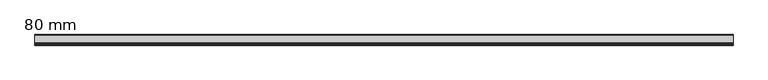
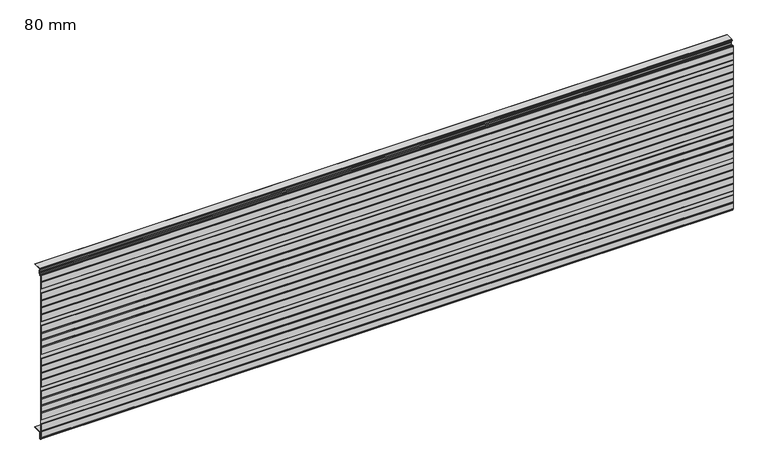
"""IFC4 building model written with IfcOpenShell, lengths in millimetres: plate geometry, HIANSA PANEL - H20.F02.002-PANELES DE FACHADA HORIZONTAL - PANEL PERFILADO - Panel de Muro Cortina : 80 mm."""

from ifc_helpers import new_model, si_unit, point, frame, frame_2d, origin, place, context, project, spatial, polyline, circle_curve, trimmed, segment, composite_curve, outline, extrude, source, transform, mapped, element, save


def plate_80_mm_0c97a696(model_context):
    return source(origin(), model_context, "Body", "SweptSolid", [
        extrude(outline(polyline([(-63.7836621, 1123.0800953), (-63.012002, 1123.5800953), (-13.6987386, 1123.5800953), (-12.8994266, 1123.0800953), (-63.7836621, 1123.0800953)])), frame((-2200.0, 0.0, 0.0), z_axis=(1.0, 0.0, 0.0), x_axis=(0.0, 1.0, 0.0)), (0.0, 0.0, 1.0), 4400.0),
        extrude(outline(polyline([(-63.8274011, 25.6210465), (-12.9205789, 25.6210465), (-13.7002592, 25.1210465), (-63.0111357, 25.1210465), (-63.8274011, 25.6210465)])), frame((-2200.0, 0.0, 0.0), z_axis=(1.0, 0.0, 0.0), x_axis=(0.0, 1.0, 0.0)), (0.0, 0.0, 1.0), 4400.0),
        extrude(outline(composite_curve([segment(trimmed(circle_curve(frame_2d((-66.3367084, 23.0802198)), 2.54), [point((-68.8767084, 23.0802198))], [point((-66.3367084, 25.6202198))], False, "CARTESIAN"), True, "CONTINUOUS"), segment(polyline([(-66.3367084, 25.6202198), (-63.8260515, 25.6202198), (-63.0095828, 25.1200953), (-66.336632, 25.1202198)]), True, "CONTINUOUS"), segment(trimmed(circle_curve(frame_2d((-66.3367084, 23.0802198)), 2.04), [point((-66.336632, 25.1202198))], [point((-68.3767084, 23.0802198))], True, "CARTESIAN"), True, "CONTINUOUS"), segment(polyline([(-68.3767084, 23.0802198), (-68.3767084, -18.7009512)]), True, "CONTINUOUS"), segment(trimmed(circle_curve(frame_2d((-69.3767084, -18.7009512)), 1.0), [point((-68.3767084, -18.7009512))], [point((-69.3767084, -19.7009512))], False, "CARTESIAN"), True, "CONTINUOUS"), segment(polyline([(-69.3767084, -19.7009512), (-73.1267084, -19.7009512)]), True, "CONTINUOUS"), segment(trimmed(circle_curve(frame_2d((-73.1267084, -18.7009512)), 1.0), [point((-73.1267084, -19.7009512))], [point((-74.1267084, -18.7009512))], False, "CARTESIAN"), True, "CONTINUOUS"), segment(polyline([(-74.1267084, -18.7009512), (-74.1267084, -10.5354413)]), True, "CONTINUOUS"), segment(trimmed(circle_curve(frame_2d((-75.1267084, -10.5354413)), 1.0), [point((-74.1267084, -10.5354413))], [point((-75.1267084, -9.5354413))], True, "CARTESIAN"), True, "CONTINUOUS"), segment(polyline([(-75.1267084, -9.5354413), (-77.5159365, -9.5354413)]), True, "CONTINUOUS"), segment(trimmed(circle_curve(frame_2d((-77.5159365, -7.6351946)), 1.9002467), [point((-77.5159365, -9.5354413))], [point((-79.3594466, -8.0960721))], False, "CARTESIAN"), True, "CONTINUOUS"), segment(polyline([(-79.3594466, -8.0960721), (-79.9990488, -5.5376633), (-79.9990488, 33.6845589), (-78.9990488, 37.6845589), (-79.9990488, 41.6845589), (-79.9990488, 84.9067811), (-78.9990488, 87.9067811), (-78.9990488, 113.0187811), (-79.9990488, 116.0187811), (-79.9990488, 159.2410033), (-78.9990488, 163.2410033), (-79.9990488, 167.2410033), (-79.9990488, 206.4632255), (-78.9990488, 210.4632255), (-79.9990488, 214.4632255), (-79.9990488, 253.6854477), (-78.9990488, 257.6854477), (-79.9990488, 261.6854477), (-79.9990488, 304.9076699), (-78.9990488, 307.9076699), (-78.9990488, 333.0196699), (-79.9990488, 336.0196699), (-79.9990488, 379.2418921), (-78.9990488, 383.2418921), (-79.9990488, 387.2418921), (-79.9990488, 426.4641143), (-78.9990488, 430.4641143), (-79.9990488, 434.4641143), (-79.9990488, 473.6863365), (-78.9990488, 477.6863365), (-79.9990488, 481.6863365), (-79.9990488, 524.9085587), (-78.9990488, 527.9085587), (-78.9990488, 553.0205587), (-79.9990488, 556.0205587), (-79.9990488, 599.2427809), (-78.9990488, 603.2427809), (-79.9990488, 607.2427809), (-79.9990488, 646.4650031), (-78.9990488, 650.4650031), (-79.9990488, 654.4650031), (-79.9990488, 693.6872253), (-78.9990488, 697.6872253), (-79.9990488, 701.6872253), (-79.9990488, 744.9094475), (-78.9990488, 747.9094475), (-78.9990488, 773.0214475), (-79.9990488, 776.0214475), (-79.9990488, 819.2436697), (-78.9990488, 823.2436697), (-79.9990488, 827.2436697), (-79.9990488, 866.4658919), (-78.9990488, 870.4658919), (-79.9990488, 874.4658919), (-79.9990488, 913.6881141), (-78.9990488, 917.6881141), (-79.9990488, 921.6881141), (-79.9990488, 964.9103363), (-78.9990488, 967.9103363), (-78.9990488, 993.0223363), (-79.9990488, 996.0223363), (-79.9990488, 1039.2445585), (-78.9990488, 1043.2445585), (-79.9990488, 1047.2445585), (-79.9990488, 1086.4667807), (-79.3593999, 1089.0253764)]), True, "CONTINUOUS"), segment(trimmed(circle_curve(frame_2d((-77.5161291, 1088.5645587)), 1.9), [point((-79.3593999, 1089.0253764))], [point((-77.5161291, 1090.4645587))], False, "CARTESIAN"), True, "CONTINUOUS"), segment(polyline([(-77.5161291, 1090.4645587), (-75.3767084, 1090.4645587)]), True, "CONTINUOUS"), segment(trimmed(circle_curve(frame_2d((-75.3767084, 1089.4645587)), 1.0), [point((-75.3767084, 1090.4645587))], [point((-74.3767084, 1089.4645587))], False, "CARTESIAN"), True, "CONTINUOUS"), segment(polyline([(-74.3767084, 1089.4645587), (-74.3767084, 1080.7990488)]), True, "CONTINUOUS"), segment(trimmed(circle_curve(frame_2d((-73.3767084, 1080.7990488)), 1.0), [point((-74.3767084, 1080.7990488))], [point((-73.3767084, 1079.7990488))], True, "CARTESIAN"), True, "CONTINUOUS"), segment(polyline([(-73.3767084, 1079.7990488), (-69.1267084, 1079.7990488)]), True, "CONTINUOUS"), segment(trimmed(circle_curve(frame_2d((-69.1267084, 1080.7990488)), 1.0), [point((-69.1267084, 1079.7990488))], [point((-68.1267084, 1080.7990488))], True, "CARTESIAN"), True, "CONTINUOUS"), segment(polyline([(-68.1267084, 1080.7990488), (-68.1267084, 1082.4003519)]), True, "CONTINUOUS"), segment(trimmed(circle_curve(frame_2d((-66.1267084, 1082.4003519)), 2.0), [point((-68.1267084, 1082.4003519))], [point((-67.2738613, 1084.038656))], False, "CARTESIAN"), True, "CONTINUOUS"), segment(polyline([(-67.2738613, 1084.038656), (-61.2163437, 1088.2801754)]), True, "CONTINUOUS"), segment(trimmed(circle_curve(frame_2d((-62.0767084, 1089.5089035)), 1.5), [point((-61.2163437, 1088.2801754))], [point((-60.5767084, 1089.5089035))], True, "CARTESIAN"), True, "CONTINUOUS"), segment(polyline([(-60.5767084, 1089.5089035), (-60.5767084, 1098.7402031), (-59.6767084, 1100.2990488), (-60.5767084, 1101.8578945), (-60.5767084, 1111.0891941)]), True, "CONTINUOUS"), segment(trimmed(circle_curve(frame_2d((-62.0767084, 1111.0891941)), 1.5), [point((-60.5767084, 1111.0891941))], [point((-61.2163437, 1112.3179221))], True, "CARTESIAN"), True, "CONTINUOUS"), segment(polyline([(-61.2163437, 1112.3179221), (-67.2738613, 1116.5594416)]), True, "CONTINUOUS"), segment(trimmed(circle_curve(frame_2d((-66.1267084, 1118.1977457)), 2.0), [point((-67.2738613, 1116.5594416))], [point((-68.1267084, 1118.1977457))], False, "CARTESIAN"), True, "CONTINUOUS"), segment(polyline([(-68.1267084, 1118.1977457), (-68.1267084, 1121.5800953)]), True, "CONTINUOUS"), segment(trimmed(circle_curve(frame_2d((-66.1267084, 1121.5800953)), 2.0), [point((-68.1267084, 1121.5800953))], [point((-66.1267084, 1123.5800953))], False, "CARTESIAN"), True, "CONTINUOUS"), segment(polyline([(-66.1267084, 1123.5800953), (-63.0095828, 1123.5800953), (-63.7812429, 1123.0800953), (-66.1267084, 1123.0800953)]), True, "CONTINUOUS"), segment(trimmed(circle_curve(frame_2d((-66.1267084, 1121.5800953)), 1.5), [point((-66.1267084, 1123.0800953))], [point((-67.6267084, 1121.5800953))], True, "CARTESIAN"), True, "CONTINUOUS"), segment(polyline([(-67.6267084, 1121.5800953), (-67.6267084, 1118.1977457)]), True, "CONTINUOUS"), segment(trimmed(circle_curve(frame_2d((-66.1267084, 1118.1977457)), 1.5), [point((-67.6267084, 1118.1977457))], [point((-66.987073, 1116.9690176))], True, "CARTESIAN"), True, "CONTINUOUS"), segment(polyline([(-66.987073, 1116.9690176), (-60.9295555, 1112.7274982)]), True, "CONTINUOUS"), segment(trimmed(circle_curve(frame_2d((-62.0767084, 1111.0891941)), 2.0), [point((-60.9295555, 1112.7274982))], [point((-60.0767084, 1111.0891941))], False, "CARTESIAN"), True, "CONTINUOUS"), segment(polyline([(-60.0767084, 1111.0891941), (-60.0767084, 1101.9918691), (-59.3880333, 1100.7990488)]), True, "CONTINUOUS"), segment(trimmed(circle_curve(frame_2d((-60.2540587, 1100.2990488)), 1.0), [point((-59.3880333, 1100.7990488))], [point((-59.3880333, 1099.7990488))], False, "CARTESIAN"), True, "CONTINUOUS"), segment(polyline([(-59.3880333, 1099.7990488), (-60.0767084, 1098.6062285), (-60.0767084, 1089.5089035)]), True, "CONTINUOUS"), segment(trimmed(circle_curve(frame_2d((-62.0767084, 1089.5089035)), 2.0), [point((-60.0767084, 1089.5089035))], [point((-60.9295555, 1087.8705994))], False, "CARTESIAN"), True, "CONTINUOUS"), segment(polyline([(-60.9295555, 1087.8705994), (-66.987073, 1083.62908)]), True, "CONTINUOUS"), segment(trimmed(circle_curve(frame_2d((-66.1267084, 1082.4003519)), 1.5), [point((-66.987073, 1083.62908))], [point((-67.6267084, 1082.4003519))], True, "CARTESIAN"), True, "CONTINUOUS"), segment(polyline([(-67.6267084, 1082.4003519), (-67.6267084, 1080.7990488)]), True, "CONTINUOUS"), segment(trimmed(circle_curve(frame_2d((-69.1267084, 1080.7990488)), 1.5), [point((-67.6267084, 1080.7990488))], [point((-69.1267084, 1079.2990488))], False, "CARTESIAN"), True, "CONTINUOUS"), segment(polyline([(-69.1267084, 1079.2990488), (-73.3767084, 1079.2990488)]), True, "CONTINUOUS"), segment(trimmed(circle_curve(frame_2d((-73.3767084, 1080.7990488)), 1.5), [point((-73.3767084, 1079.2990488))], [point((-74.8767084, 1080.7990488))], False, "CARTESIAN"), True, "CONTINUOUS"), segment(polyline([(-74.8767084, 1080.7990488), (-74.8767084, 1089.9645587), (-77.5161291, 1089.9645587)]), True, "CONTINUOUS"), segment(trimmed(circle_curve(frame_2d((-77.5161291, 1088.5645587)), 1.4), [point((-77.5161291, 1089.9645587))], [point((-78.8743286, 1088.9041086))], True, "CARTESIAN"), True, "CONTINUOUS"), segment(polyline([(-78.8743286, 1088.9041086), (-79.4990488, 1086.4052279), (-79.4990488, 1047.3061113), (-78.4836606, 1043.2445585), (-79.4990488, 1039.1830057), (-79.4990488, 996.1034751), (-78.4990488, 993.1034751), (-78.4990488, 967.8291975), (-79.4990488, 964.8291975), (-79.4990488, 921.7496669), (-78.4836606, 917.6881141), (-79.4990488, 913.6265613), (-79.4990488, 874.5274447), (-78.4836606, 870.4658919), (-79.4990488, 866.4043391), (-79.4990488, 827.3052225), (-78.4836606, 823.2436697), (-79.4990488, 819.1821169), (-79.4990488, 776.1025863), (-78.4990488, 773.1025863), (-78.4990488, 747.8283087), (-79.4990488, 744.8283087), (-79.4990488, 701.7487781), (-78.4836606, 697.6872253), (-79.4990488, 693.6256725), (-79.4990488, 654.5265559), (-78.4836606, 650.4650031), (-79.4990488, 646.4034503), (-79.4990488, 607.3043337), (-78.4836606, 603.2427809), (-79.4990488, 599.1812281), (-79.4990488, 556.1016975), (-78.4990488, 553.1016975), (-78.4990488, 527.8274199), (-79.4990488, 524.8274199), (-79.4990488, 481.7478893), (-78.4836606, 477.6863365), (-79.4990488, 473.6247837), (-79.4990488, 434.5256671), (-78.4836606, 430.4641143), (-79.4990488, 426.4025615), (-79.4990488, 387.3034449), (-78.4836606, 383.2418921), (-79.4990488, 379.1803393), (-79.4990488, 336.1008087), (-78.4990488, 333.1008087), (-78.4990488, 307.8265311), (-79.4990488, 304.8265311), (-79.4990488, 261.7470005), (-78.4836606, 257.6854477), (-79.4990488, 253.6238949), (-79.4990488, 214.5247783), (-78.4836606, 210.4632255), (-79.4990488, 206.4016727), (-79.4990488, 167.3025561), (-78.4836606, 163.2410033), (-79.4990488, 159.1794505), (-79.4990488, 116.0999199), (-78.4990488, 113.0999199), (-78.4990488, 87.8256423), (-79.4990488, 84.8256423), (-79.4990488, 41.7461117), (-78.4836606, 37.6845589), (-79.4990488, 33.6230061), (-79.4990488, -5.4761105), (-78.8741312, -7.9757808)]), True, "CONTINUOUS"), segment(trimmed(circle_curve(frame_2d((-77.5169431, -7.6364838)), 1.3989577), [point((-78.8741312, -7.9757808))], [point((-77.5169431, -9.0354415))], True, "CARTESIAN"), True, "CONTINUOUS"), segment(polyline([(-77.5169431, -9.0354415), (-75.1267084, -9.0354413)]), True, "CONTINUOUS"), segment(trimmed(circle_curve(frame_2d((-75.1267084, -10.5354413)), 1.5), [point((-75.1267084, -9.0354413))], [point((-73.6267084, -10.5354413))], False, "CARTESIAN"), True, "CONTINUOUS"), segment(polyline([(-73.6267084, -10.5354413), (-73.6267084, -19.2009512), (-68.8767084, -19.2009512), (-68.8767084, 23.0802198)]), True, "CONTINUOUS")], self_intersect=False)), frame((-2200.0, 0.0, 0.0), z_axis=(1.0, 0.0, 0.0), x_axis=(0.0, 1.0, 0.0)), (0.0, 0.0, 1.0), 4400.0),
    ])


if __name__ == "__main__":
    model = new_model("IFC4")
    model_context = context("Model", 3, world=origin())
    ifc_project = project(units=[si_unit("LENGTHUNIT", "METRE", prefix="MILLI")], contexts=[model_context])
    site = spatial("IfcSite", under=ifc_project)
    building = spatial("IfcBuilding", under=site)
    placement = place(None, origin())
    plate_80_mm_shape = plate_80_mm_0c97a696(model_context)
    element("IfcPlate", 1, ObjectType="HIANSA PANEL - H20.F02.002-PANELES DE FACHADA HORIZONTAL - PANEL PERFILADO - Panel de Muro Cortina : 80 mm", at=placement, inside=building, context=model_context, shape_type="MappedRepresentation", body=[
        mapped(plate_80_mm_shape, transform((0.0, 0.0, 0.0), x_axis=(1.0, 0.0, 0.0), y_axis=(0.0, 1.0, 0.0), z_axis=(0.0, 0.0, 1.0))),
    ])
    save(model, "model.ifc")
